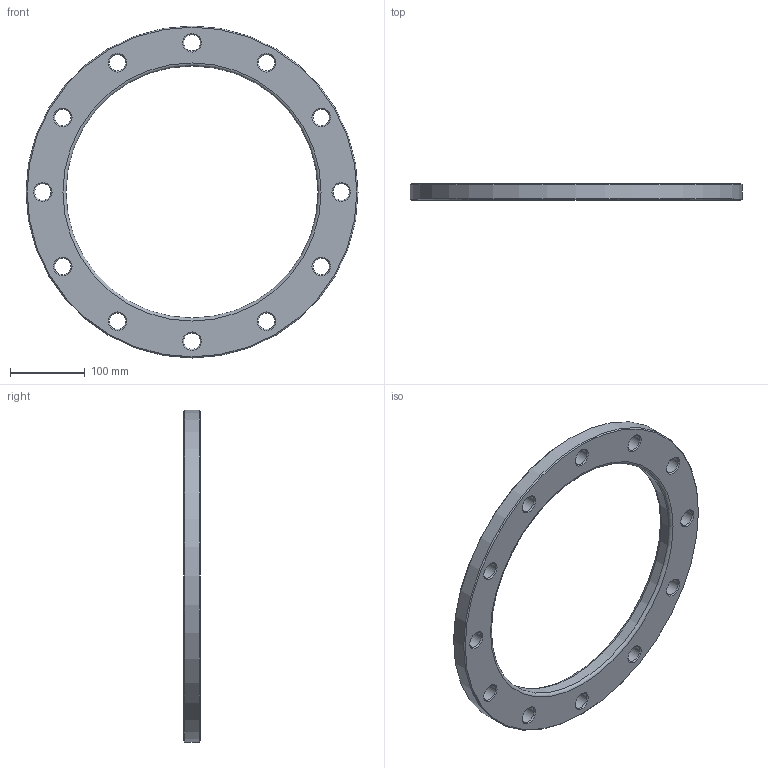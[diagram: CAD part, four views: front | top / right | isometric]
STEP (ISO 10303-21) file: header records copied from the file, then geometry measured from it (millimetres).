
FILE_DESCRIPTION(/* description */ ('Unknown'),/* implementation_level */ '2;1');
FILE_NAME(/* name */ 'FZ315B',/* time_stamp */ '2021-03-15T10:36:16+01:00',/* author */ ('Unknown'),/* organization */ ('Unknown'),/* preprocessor_version */ 'ST-DEVELOPER v16.7',/* originating_system */ 'Solid Edge',/* authorisation */ 'Unknown');
FILE_SCHEMA (('AUTOMOTIVE_DESIGN {1 0 10303 214 3 1 1}'));
Length unit declared in the file: millimetre
Products named in the file (1): FZ315B
Bounding box: 445 x 22 x 445 mm (x, y, z)
Volume: 1334856.7 mm3; surface area: 187361.4 mm2
Topology: 1 solids, 1 shells, 44 faces, 134 edges, 92 vertices
Faces by surface type: cone 26, cylinder 14, plane 2, torus 2
Full cylindrical faces by diameter (mm): 22 x12, 338 x1, 445 x1
Entity records: 1086 total; most frequent: DIRECTION 202, CARTESIAN_POINT 157, ORIENTED_EDGE 112, EDGE_LOOP 112, FACE_BOUND 112, AXIS2_PLACEMENT_3D 101, EDGE_CURVE 56, VERTEX_POINT 56
